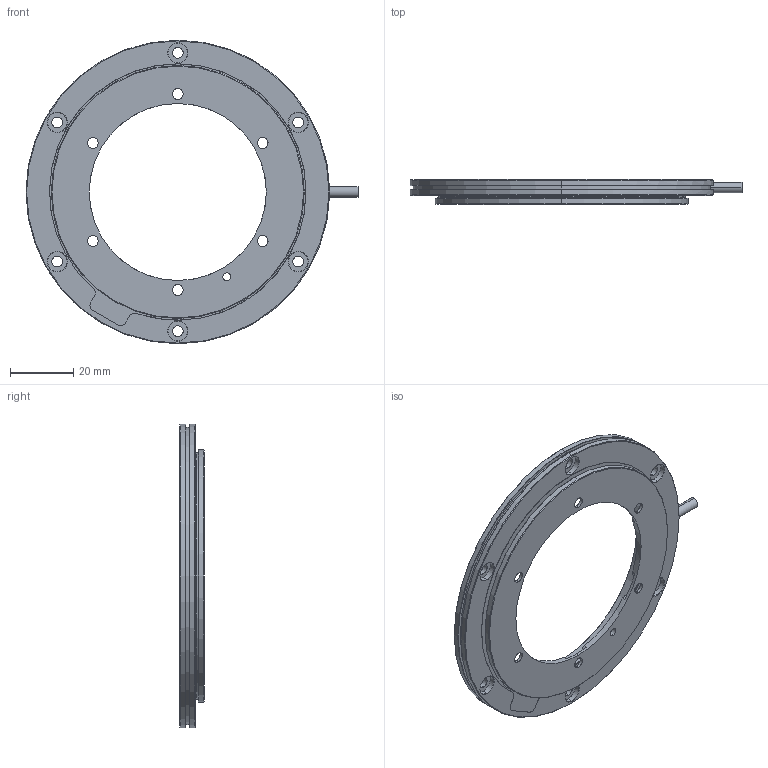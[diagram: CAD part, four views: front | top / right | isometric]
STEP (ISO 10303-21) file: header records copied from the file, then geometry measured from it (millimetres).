
FILE_DESCRIPTION (( 'STEP AP214' ), '1' );
FILE_NAME ('GMI-ROT-096-A11-K0x-ST_rev01.STEP', '2023-11-08T09:12:54', ( '' ), ( '' ), 'SwSTEP 2.0', 'SolidWorks 2021', '' );
FILE_SCHEMA (( 'AUTOMOTIVE_DESIGN' ));
Length unit declared in the file: millimetre
Products named in the file (1): GMI-ROT-096-A11-K0x-ST_rev01
Bounding box: 105 x 7.8 x 96 mm (x, y, z)
Volume: 22261.8 mm3; surface area: 27424.6 mm2
Topology: 6 solids, 6 shells, 315 faces, 782 edges, 498 vertices
Faces by surface type: cylinder 183, cone 73, plane 59
Entity records: 13162 total; most frequent: DIRECTION 1864, CARTESIAN_POINT 1642, ORIENTED_EDGE 1564, EDGE_CURVE 782, AXIS2_PLACEMENT_3D 772, VERTEX_POINT 498, CIRCLE 456, EDGE_LOOP 370
